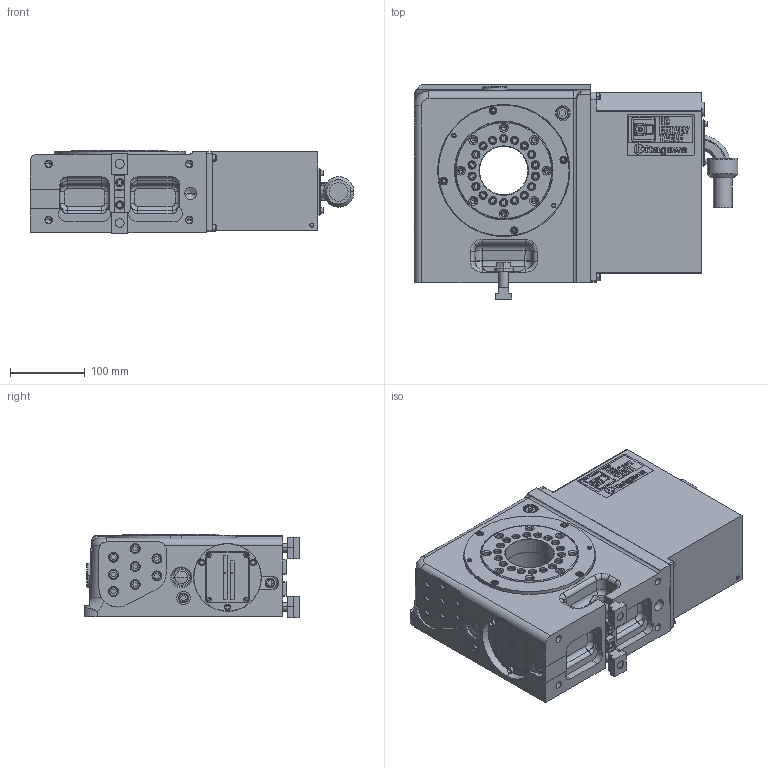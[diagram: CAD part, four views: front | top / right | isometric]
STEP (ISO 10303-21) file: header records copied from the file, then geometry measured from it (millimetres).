
FILE_DESCRIPTION (( 'STEP AP214' ), '1' );
FILE_NAME ('【掲載用】CK200Quinte右勝手.STEP', '2019-10-11T04:48:08', ( '' ), ( '' ), 'SwSTEP 2.0', 'SolidWorks 2017', '' );
FILE_SCHEMA (( 'AUTOMOTIVE_DESIGN' ));
Length unit declared in the file: millimetre
Products named in the file (18): ガイドブロック(61M4198752); CK200R00僋儈僞僥(61E1143492); テーブル(61E8309352)CKR200R00; チェックバルブ AKB01A-01S-×435; オイルゲージ 257; リベットメイバンPAD(61E4844381,61E4844371)CK160; シリンダ(61E2806300)CK200R00; シールリング(61E8300941)CKR200R00; ベース(61E1143137)CKR200R00; 【掲載用】CK200Quinte右勝手; Tスロットナット１４１２; クランプキミタテ(61E473251)CK160D1; B パーカ　M12×40; ワッシャ １２(61M4266320)VQ100; CK200RVホンタイ; 働乕僽儖N29ZSZ2562; キタガワシール; モータケース(61E2786270)CKR200RV00
Assembly tree (19 placements, depth 4):
  【掲載用】CK200Quinte右勝手
    CK200RVホンタイ
      CK200R00僋儈僞僥(61E1143492)
        ベース(61E1143137)CKR200R00
        シールリング(61E8300941)CKR200R00
        シリンダ(61E2806300)CK200R00
        リベットメイバンPAD(61E4844381,61E4844371)CK160
        オイルゲージ 257
        チェックバルブ AKB01A-01S-×435
        テーブル(61E8309352)CKR200R00
      ガイドブロック(61M4198752)  x2
      モータケース(61E2786270)CKR200RV00
      キタガワシール
      働乕僽儖N29ZSZ2562
    クランプキミタテ(61E473251)CK160D1  x2
      ワッシャ １２(61M4266320)VQ100
      B パーカ　M12×40
      Tスロットナット１４１２
Bounding box: 433.4 x 287 x 111.25 mm (x, y, z)
Volume: 9466502.2 mm3; surface area: 718587.9 mm2
Topology: 18 solids, 18 shells, 3194 faces, 8253 edges, 5354 vertices
Faces by surface type: plane 2247, cylinder 626, cone 232, bspline 42, torus 29, sphere 18
Entity records: 109046 total; most frequent: CARTESIAN_POINT 19195, ORIENTED_EDGE 16062, DIRECTION 15540, EDGE_CURVE 8031, LINE 6410, VECTOR 6410, VERTEX_POINT 5252, AXIS2_PLACEMENT_3D 4565
